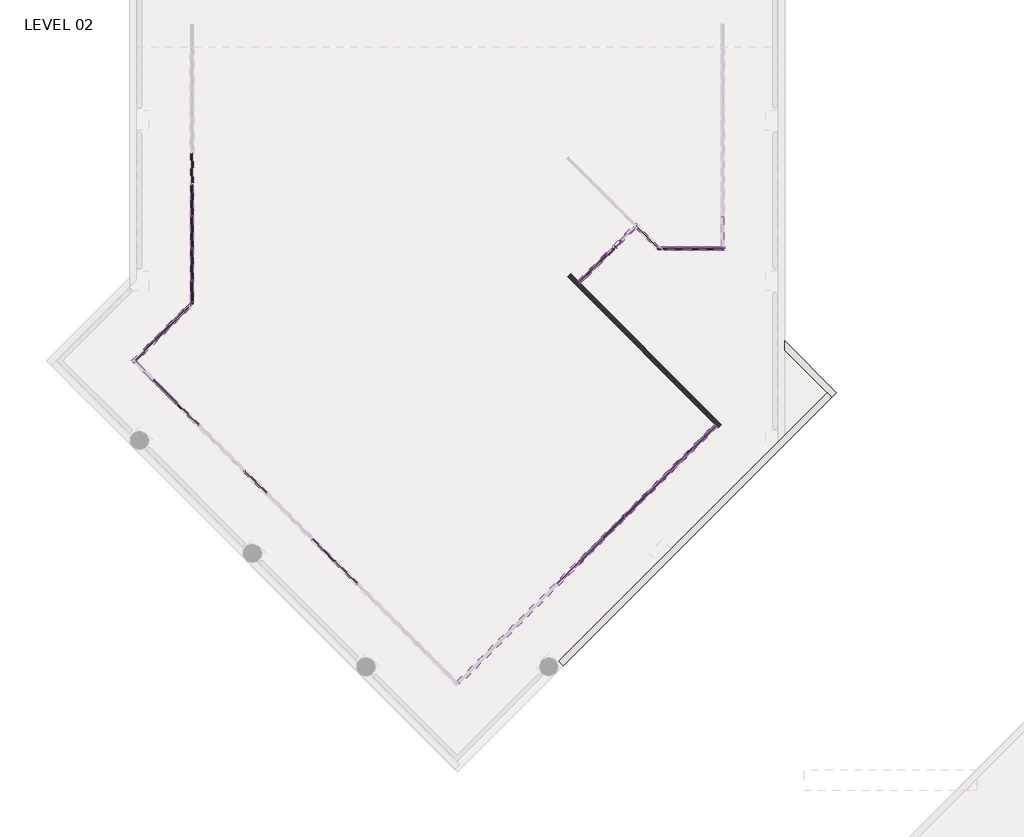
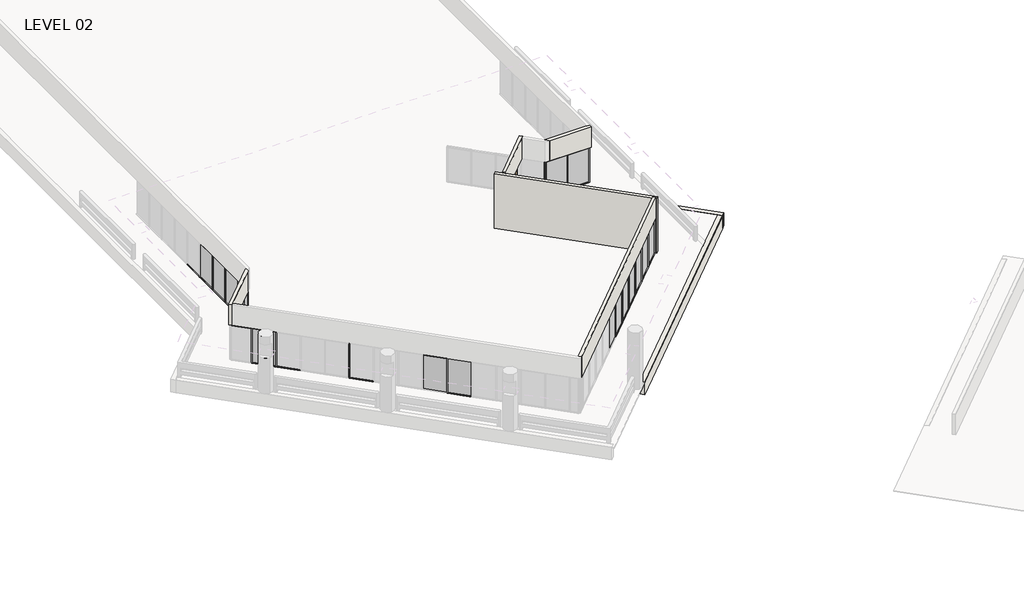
# One storey, part 3 of 19: 76 members, 21 plates, 7 walls, 1 door.
"""IFC4 building model written with IfcOpenShell, lengths in millimetres."""

from ifc_helpers import new_model, si_unit, frame, origin, place, context, project, spatial, polyline, outline, extrude, faceted_brep, transform, mapped, element, save
from components import curtain_wall_dbl_glass_curtain_wall_dbl_glass_ad4eb2cc, member_ed5eb8ce, member_5247f267, member_e44af9ab, member_800970d4, member_cca1f9e6, member_ccf7f6e3, member_67d17f7f, member_d5560c68, member_191f7a6c, member_e56bd8eb, member_6d95746d, member_c23f844a, member_35eb671e, member_74c9df78, member_e779ecf1, member_129419c3, plate_ce959b8d, plate_67294edd, plate_aaac5d3d, plate_5a14c350, plate_748a28b9, plate_028de0fc, plate_048e4634, plate_33a48981, plate_e3fa2cc7, plate_85447239

model = new_model("IFC4")

# Units and contexts
model_context = context("Model", 3, world=origin())
ifc_project = project(units=[si_unit("LENGTHUNIT", "METRE", prefix="MILLI")], contexts=[model_context])

# Site, building, storey
site = spatial("IfcSite", under=ifc_project)
building = spatial("IfcBuilding", under=site)
storey = spatial("IfcBuildingStorey", under=building, Name="LEVEL 02", Elevation=4140.2)

# Door
placement = place(None, origin())
curtain_wall_dbl_glass_curtain_wall_dbl_glass_shape = curtain_wall_dbl_glass_curtain_wall_dbl_glass_ad4eb2cc(model_context)
element("IfcDoor", 1, ObjectType="Curtain Wall Dbl Glass : Curtain Wall Dbl Glass", at=placement, inside=storey, context=model_context, shape_type="MappedRepresentation", body=[
    mapped(curtain_wall_dbl_glass_curtain_wall_dbl_glass_shape, transform((-9768.7051367, 47649.2586372, 4140.2), x_axis=(-0.7071067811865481, -0.7071067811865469, 0.0), y_axis=(0.7071067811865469, -0.7071067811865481, 0.0), z_axis=(0.0, 0.0, 1.0))),
])

# Members
member_shape = member_ed5eb8ce(model_context)
element("IfcMember", 2, ObjectType="Rectangular Mullion : 2\" x 4.5\" rectangular", at=placement, inside=storey, context=model_context, shape_type="MappedRepresentation", body=[
    mapped(member_shape, transform((-29793.1847164, 46062.5675885, 6731.0), x_axis=(0.0, 0.0, 1.0), y_axis=(1.0, 0.0, 0.0), z_axis=(0.0, 1.0, 0.0))),
])
member_2_shape = member_5247f267(model_context)
element("IfcMember", 3, ObjectType="Rectangular Mullion : 2\" x 4.5\" rectangular", at=placement, inside=storey, context=model_context, shape_type="MappedRepresentation", body=[
    mapped(member_2_shape, transform((-29793.1847164, 47586.5675885, 6731.0), x_axis=(0.0, 0.0, 1.0), y_axis=(1.0, 0.0, 0.0), z_axis=(0.0, 1.0, 0.0))),
])
element("IfcMember", 4, ObjectType="Rectangular Mullion : 2\" x 4.5\" rectangular", at=placement, inside=storey, context=model_context, shape_type="MappedRepresentation", body=[
    mapped(member_2_shape, transform((-30540.2150289, 40288.1423984, 6731.0), x_axis=(0.0, 0.0, 1.0), y_axis=(-0.7071067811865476, -0.7071067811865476, 0.0), z_axis=(0.7071067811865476, -0.7071067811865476, 0.0))),
])
element("IfcMember", 5, ObjectType="Rectangular Mullion : 2\" x 4.5\" rectangular", at=placement, inside=storey, context=model_context, shape_type="MappedRepresentation", body=[
    mapped(member_2_shape, transform((-10327.3537461, 33816.4930562, 6731.0), x_axis=(0.0, 0.0, 1.0), y_axis=(0.7071067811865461, -0.707106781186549, 0.0), z_axis=(0.707106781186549, 0.7071067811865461, 0.0))),
])
element("IfcMember", 6, ObjectType="Rectangular Mullion : 2\" x 4.5\" rectangular", at=placement, inside=storey, context=model_context, shape_type="MappedRepresentation", body=[
    mapped(member_2_shape, transform((-9249.7378133, 34894.108989, 6731.0), x_axis=(0.0, 0.0, 1.0), y_axis=(0.7071067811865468, -0.7071067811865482, 0.0), z_axis=(0.7071067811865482, 0.7071067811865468, 0.0))),
])
element("IfcMember", 7, ObjectType="Rectangular Mullion : 2\" x 4.5\" rectangular", at=placement, inside=storey, context=model_context, shape_type="MappedRepresentation", body=[
    mapped(member_2_shape, transform((-7094.4763443, 37049.370458, 6731.0), x_axis=(0.0, 0.0, 1.0), y_axis=(0.7071067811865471, -0.7071067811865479, 0.0), z_axis=(0.7071067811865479, 0.7071067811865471, 0.0))),
])
element("IfcMember", 8, ObjectType="Rectangular Mullion : 2\" x 4.5\" rectangular", at=placement, inside=storey, context=model_context, shape_type="MappedRepresentation", body=[
    mapped(member_2_shape, transform((-29793.1847164, 49110.5675885, 6731.0), x_axis=(0.0, 0.0, 1.0), y_axis=(1.0, 0.0, 0.0), z_axis=(0.0, 1.0, 0.0))),
])
element("IfcMember", 9, ObjectType="Rectangular Mullion : 2\" x 4.5\" rectangular", at=placement, inside=storey, context=model_context, shape_type="MappedRepresentation", body=[
    mapped(member_2_shape, transform((-29793.1847164, 50634.5675885, 6731.0), x_axis=(0.0, 0.0, 1.0), y_axis=(1.0, 0.0, 0.0), z_axis=(0.0, 1.0, 0.0))),
])
element("IfcMember", 10, ObjectType="Rectangular Mullion : 2\" x 4.5\" rectangular", at=placement, inside=storey, context=model_context, shape_type="MappedRepresentation", body=[
    mapped(member_2_shape, transform((-23026.8079799, 32774.7353495, 6731.0), x_axis=(0.0, 0.0, 1.0), y_axis=(-0.7071067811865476, -0.7071067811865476, 0.0), z_axis=(0.7071067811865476, -0.7071067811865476, 0.0))),
])
element("IfcMember", 11, ObjectType="Rectangular Mullion : 2\" x 4.5\" rectangular", at=placement, inside=storey, context=model_context, shape_type="MappedRepresentation", body=[
    mapped(member_2_shape, transform((-11404.9696789, 32738.8771234, 6731.0), x_axis=(0.0, 0.0, 1.0), y_axis=(0.7071067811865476, -0.7071067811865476, 0.0), z_axis=(0.7071067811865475, 0.7071067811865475, 0.0))),
])
element("IfcMember", 12, ObjectType="Rectangular Mullion : 2\" x 4.5\" rectangular", at=placement, inside=storey, context=model_context, shape_type="MappedRepresentation", body=[
    mapped(member_2_shape, transform((-8172.1070788, 35971.7397235, 6731.0), x_axis=(0.0, 0.0, 1.0), y_axis=(0.7071067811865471, -0.7071067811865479, 0.0), z_axis=(0.7071067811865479, 0.7071067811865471, 0.0))),
])
element("IfcMember", 13, ObjectType="Rectangular Mullion : 2\" x 4.5\" rectangular", at=placement, inside=storey, context=model_context, shape_type="MappedRepresentation", body=[
    mapped(member_2_shape, transform((-6016.8456097, 38127.0011926, 6731.0), x_axis=(0.0, 0.0, 1.0), y_axis=(0.7071067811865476, -0.7071067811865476, 0.0), z_axis=(0.7071067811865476, 0.7071067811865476, 0.0))),
])
element("IfcMember", 14, ObjectType="Rectangular Mullion : 2\" x 4.5\" rectangular", at=placement, inside=storey, context=model_context, shape_type="MappedRepresentation", body=[
    mapped(member_shape, transform((-29793.1847164, 45065.6230911, 4140.2), x_axis=(0.0, 0.0, -1.0), y_axis=(1.0, 0.0, 0.0), z_axis=(0.0, -1.0, 0.0))),
])
element("IfcMember", 15, ObjectType="Rectangular Mullion : 2\" x 4.5\" rectangular", at=placement, inside=storey, context=model_context, shape_type="MappedRepresentation", body=[
    mapped(member_2_shape, transform((-29793.1847164, 46113.3675885, 4140.2), x_axis=(0.0, 0.0, -1.0), y_axis=(1.0, 0.0, 0.0), z_axis=(0.0, -1.0, 0.0))),
])
element("IfcMember", 16, ObjectType="Rectangular Mullion : 2\" x 4.5\" rectangular", at=placement, inside=storey, context=model_context, shape_type="MappedRepresentation", body=[
    mapped(member_2_shape, transform((-29793.1847164, 47637.3675885, 4140.2), x_axis=(0.0, 0.0, -1.0), y_axis=(1.0, 0.0, 0.0), z_axis=(0.0, -1.0, 0.0))),
])
element("IfcMember", 17, ObjectType="Rectangular Mullion : 2\" x 4.5\" rectangular", at=placement, inside=storey, context=model_context, shape_type="MappedRepresentation", body=[
    mapped(member_2_shape, transform((-31581.924739, 41329.8521085, 4140.2), x_axis=(0.0, 0.0, -1.0), y_axis=(-0.7071067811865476, -0.7071067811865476, 0.0), z_axis=(-0.7071067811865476, 0.7071067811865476, 0.0))),
])
element("IfcMember", 18, ObjectType="Rectangular Mullion : 2\" x 4.5\" rectangular", at=placement, inside=storey, context=model_context, shape_type="MappedRepresentation", body=[
    mapped(member_2_shape, transform((-10291.4327217, 33852.4140807, 4140.2), x_axis=(0.0, 0.0, -1.0), y_axis=(0.7071067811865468, -0.7071067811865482, 0.0), z_axis=(-0.7071067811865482, -0.7071067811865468, 0.0))),
])
element("IfcMember", 19, ObjectType="Rectangular Mullion : 2\" x 4.5\" rectangular", at=placement, inside=storey, context=model_context, shape_type="MappedRepresentation", body=[
    mapped(member_2_shape, transform((-9213.8167888, 34930.0300135, 4140.2), x_axis=(0.0, 0.0, -1.0), y_axis=(0.7071067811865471, -0.7071067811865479, 0.0), z_axis=(-0.7071067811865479, -0.7071067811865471, 0.0))),
])
element("IfcMember", 20, ObjectType="Rectangular Mullion : 2\" x 4.5\" rectangular", at=placement, inside=storey, context=model_context, shape_type="MappedRepresentation", body=[
    mapped(member_2_shape, transform((-7058.5553198, 37085.2914825, 4140.2), x_axis=(0.0, 0.0, -1.0), y_axis=(0.7071067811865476, -0.7071067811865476, 0.0), z_axis=(-0.7071067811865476, -0.7071067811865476, 0.0))),
])
element("IfcMember", 21, ObjectType="Rectangular Mullion : 2\" x 4.5\" rectangular", at=placement, inside=storey, context=model_context, shape_type="MappedRepresentation", body=[
    mapped(member_2_shape, transform((-29793.1847164, 49161.3675885, 4140.2), x_axis=(0.0, 0.0, -1.0), y_axis=(1.0, 0.0, 0.0), z_axis=(0.0, -1.0, 0.0))),
])
element("IfcMember", 22, ObjectType="Rectangular Mullion : 2\" x 4.5\" rectangular", at=placement, inside=storey, context=model_context, shape_type="MappedRepresentation", body=[
    mapped(member_2_shape, transform((-29793.1847164, 50685.3675885, 4140.2), x_axis=(0.0, 0.0, -1.0), y_axis=(1.0, 0.0, 0.0), z_axis=(0.0, -1.0, 0.0))),
])
element("IfcMember", 23, ObjectType="Rectangular Mullion : 2\" x 4.5\" rectangular", at=placement, inside=storey, context=model_context, shape_type="MappedRepresentation", body=[
    mapped(member_2_shape, transform((-22990.8869555, 32738.814325, 4140.2), x_axis=(0.0, 0.0, -1.0), y_axis=(-0.7071067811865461, -0.707106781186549, 0.0), z_axis=(-0.707106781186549, 0.7071067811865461, 0.0))),
])
element("IfcMember", 24, ObjectType="Rectangular Mullion : 2\" x 4.5\" rectangular", at=placement, inside=storey, context=model_context, shape_type="MappedRepresentation", body=[
    mapped(member_2_shape, transform((-11369.0486545, 32774.7981479, 4140.2), x_axis=(0.0, 0.0, -1.0), y_axis=(0.7071067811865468, -0.7071067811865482, 0.0), z_axis=(-0.7071067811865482, -0.7071067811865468, 0.0))),
])
element("IfcMember", 25, ObjectType="Rectangular Mullion : 2\" x 4.5\" rectangular", at=placement, inside=storey, context=model_context, shape_type="MappedRepresentation", body=[
    mapped(member_2_shape, transform((-8136.1860543, 36007.660748, 4140.2), x_axis=(0.0, 0.0, -1.0), y_axis=(0.7071067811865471, -0.7071067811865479, 0.0), z_axis=(-0.7071067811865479, -0.7071067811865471, 0.0))),
])
member_3_shape = member_e44af9ab(model_context)
element("IfcMember", 26, ObjectType="Rectangular Mullion : 2\" x 4.5\" rectangular", at=placement, inside=storey, context=model_context, shape_type="MappedRepresentation", body=[
    mapped(member_3_shape, transform((-29793.1847164, 46087.9675885, 4140.2), x_axis=(0.0, 1.0, 0.0), y_axis=(1.0, 0.0, 0.0), z_axis=(0.0, 0.0, -1.0))),
])
element("IfcMember", 27, ObjectType="Rectangular Mullion : 2\" x 4.5\" rectangular", at=placement, inside=storey, context=model_context, shape_type="MappedRepresentation", body=[
    mapped(member_3_shape, transform((-29793.1847164, 47611.9675885, 4140.2), x_axis=(0.0, 1.0, 0.0), y_axis=(1.0, 0.0, 0.0), z_axis=(0.0, 0.0, -1.0))),
])
element("IfcMember", 28, ObjectType="Rectangular Mullion : 2\" x 4.5\" rectangular", at=placement, inside=storey, context=model_context, shape_type="MappedRepresentation", body=[
    mapped(member_3_shape, transform((-30501.2124677, 44306.7953398, 4140.2), x_axis=(-0.7071067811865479, -0.7071067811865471, 0.0), y_axis=(-0.7071067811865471, 0.7071067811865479, 0.0), z_axis=(0.0, 0.0, -1.0))),
])
element("IfcMember", 29, ObjectType="Rectangular Mullion : 2\" x 4.5\" rectangular", at=placement, inside=storey, context=model_context, shape_type="MappedRepresentation", body=[
    mapped(member_3_shape, transform((-31599.8852512, 41347.8126207, 4140.2), x_axis=(0.7071067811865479, -0.7071067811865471, 0.0), y_axis=(-0.7071067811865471, -0.7071067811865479, 0.0), z_axis=(0.0, 0.0, -1.0))),
])
element("IfcMember", 30, ObjectType="Rectangular Mullion : 2\" x 4.5\" rectangular", at=placement, inside=storey, context=model_context, shape_type="MappedRepresentation", body=[
    mapped(member_3_shape, transform((-30522.2545167, 40270.1818862, 4140.2), x_axis=(0.7071067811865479, -0.7071067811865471, 0.0), y_axis=(-0.7071067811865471, -0.7071067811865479, 0.0), z_axis=(0.0, 0.0, -1.0))),
])
element("IfcMember", 31, ObjectType="Rectangular Mullion : 2\" x 4.5\" rectangular", at=placement, inside=storey, context=model_context, shape_type="MappedRepresentation", body=[
    mapped(member_3_shape, transform((-10309.3932339, 33834.4535684, 4140.2), x_axis=(0.7071067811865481, 0.7071067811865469, 0.0), y_axis=(0.7071067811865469, -0.7071067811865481, 0.0), z_axis=(0.0, 0.0, -1.0))),
])
element("IfcMember", 32, ObjectType="Rectangular Mullion : 2\" x 4.5\" rectangular", at=placement, inside=storey, context=model_context, shape_type="MappedRepresentation", body=[
    mapped(member_3_shape, transform((-9231.7773011, 34912.0695012, 4140.2), x_axis=(0.7071067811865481, 0.7071067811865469, 0.0), y_axis=(0.7071067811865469, -0.7071067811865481, 0.0), z_axis=(0.0, 0.0, -1.0))),
])
element("IfcMember", 33, ObjectType="Rectangular Mullion : 2\" x 4.5\" rectangular", at=placement, inside=storey, context=model_context, shape_type="MappedRepresentation", body=[
    mapped(member_3_shape, transform((-7076.515832, 37067.3309703, 4140.2), x_axis=(0.7071067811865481, 0.7071067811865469, 0.0), y_axis=(0.7071067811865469, -0.7071067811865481, 0.0), z_axis=(0.0, 0.0, -1.0))),
])
element("IfcMember", 34, ObjectType="Rectangular Mullion : 2\" x 4.5\" rectangular", at=placement, inside=storey, context=model_context, shape_type="MappedRepresentation", body=[
    mapped(member_3_shape, transform((-27307.3242873, 37055.2516568, 4140.2), x_axis=(0.7071067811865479, -0.7071067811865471, 0.0), y_axis=(-0.7071067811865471, -0.7071067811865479, 0.0), z_axis=(0.0, 0.0, -1.0))),
])
element("IfcMember", 35, ObjectType="Rectangular Mullion : 2\" x 4.5\" rectangular", at=placement, inside=storey, context=model_context, shape_type="MappedRepresentation", body=[
    mapped(member_3_shape, transform((-31578.8432022, 43229.1646053, 4140.2), x_axis=(-0.7071067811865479, -0.7071067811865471, 0.0), y_axis=(-0.7071067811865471, 0.7071067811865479, 0.0), z_axis=(0.0, 0.0, -1.0))),
])
element("IfcMember", 36, ObjectType="Rectangular Mullion : 2\" x 4.5\" rectangular", at=placement, inside=storey, context=model_context, shape_type="MappedRepresentation", body=[
    mapped(member_3_shape, transform((-29793.1847164, 49135.9675885, 4140.2), x_axis=(0.0, 1.0, 0.0), y_axis=(1.0, 0.0, 0.0), z_axis=(0.0, 0.0, -1.0))),
])
element("IfcMember", 37, ObjectType="Rectangular Mullion : 2\" x 4.5\" rectangular", at=placement, inside=storey, context=model_context, shape_type="MappedRepresentation", body=[
    mapped(member_3_shape, transform((-23008.8474677, 32756.7748372, 4140.2), x_axis=(0.7071067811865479, -0.7071067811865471, 0.0), y_axis=(-0.7071067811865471, -0.7071067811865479, 0.0), z_axis=(0.0, 0.0, -1.0))),
])
element("IfcMember", 38, ObjectType="Rectangular Mullion : 2\" x 4.5\" rectangular", at=placement, inside=storey, context=model_context, shape_type="MappedRepresentation", body=[
    mapped(member_3_shape, transform((-11387.0091667, 32756.8376356, 4140.2), x_axis=(0.7071067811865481, 0.7071067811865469, 0.0), y_axis=(0.7071067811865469, -0.7071067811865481, 0.0), z_axis=(0.0, 0.0, -1.0))),
])
element("IfcMember", 39, ObjectType="Rectangular Mullion : 2\" x 4.5\" rectangular", at=placement, inside=storey, context=model_context, shape_type="MappedRepresentation", body=[
    mapped(member_3_shape, transform((-8154.1465666, 35989.7002358, 4140.2), x_axis=(0.7071067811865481, 0.7071067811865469, 0.0), y_axis=(0.7071067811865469, -0.7071067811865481, 0.0), z_axis=(0.0, 0.0, -1.0))),
])
element("IfcMember", 40, ObjectType="Rectangular Mullion : 2\" x 4.5\" rectangular", at=placement, inside=storey, context=model_context, shape_type="MappedRepresentation", body=[
    mapped(member_3_shape, transform((-5998.8850975, 38144.9617048, 4140.2), x_axis=(0.7071067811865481, 0.7071067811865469, 0.0), y_axis=(0.7071067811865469, -0.7071067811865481, 0.0), z_axis=(0.0, 0.0, -1.0))),
])
element("IfcMember", 41, ObjectType="Rectangular Mullion : 2\" x 4.5\" rectangular", at=placement, inside=storey, context=model_context, shape_type="MappedRepresentation", body=[
    mapped(member_3_shape, transform((-6126.7347164, 47611.9675885, 4140.2), x_axis=(-1.0, 0.0, 0.0), y_axis=(0.0, 1.0, 0.0), z_axis=(0.0, 0.0, -1.0))),
])
element("IfcMember", 42, ObjectType="Rectangular Mullion : 2\" x 4.5\" rectangular", at=placement, inside=storey, context=model_context, shape_type="MappedRepresentation", body=[
    mapped(member_3_shape, transform((-9445.7075963, 47972.2561777, 4140.2), x_axis=(-0.7071067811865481, -0.7071067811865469, 0.0), y_axis=(-0.7071067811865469, 0.7071067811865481, 0.0), z_axis=(0.0, 0.0, -1.0))),
])
element("IfcMember", 43, ObjectType="Rectangular Mullion : 2\" x 4.5\" rectangular", at=placement, inside=storey, context=model_context, shape_type="MappedRepresentation", body=[
    mapped(member_3_shape, transform((-10738.8644778, 46679.0992962, 4140.2), x_axis=(-0.7071067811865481, -0.7071067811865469, 0.0), y_axis=(-0.7071067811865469, 0.7071067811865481, 0.0), z_axis=(0.0, 0.0, -1.0))),
])
member_4_shape = member_800970d4(model_context)
element("IfcMember", 44, ObjectType="Rectangular Mullion : 2\" x 4.5\" rectangular", at=placement, inside=storey, context=model_context, shape_type="MappedRepresentation", body=[
    mapped(member_4_shape, transform((-4921.254363, 39222.5924393, 4140.2), x_axis=(0.7071067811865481, 0.7071067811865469, 0.0), y_axis=(0.7071067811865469, -0.7071067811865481, 0.0), z_axis=(0.0, 0.0, -1.0))),
])
element("IfcMember", 45, ObjectType="Rectangular Mullion : 2\" x 4.5\" rectangular", at=placement, inside=storey, context=model_context, shape_type="MappedRepresentation", body=[
    mapped(member_4_shape, transform((-4602.7347164, 47611.9675885, 4140.2), x_axis=(0.0, -1.0, 0.0), y_axis=(-1.0, 0.0, 0.0), z_axis=(0.0, 0.0, -1.0))),
])
element("IfcMember", 46, ObjectType="Rectangular Mullion : 2\" x 4.5\" rectangular", at=placement, inside=storey, context=model_context, shape_type="MappedRepresentation", body=[
    mapped(member_4_shape, transform((-7650.7347164, 47611.9675885, 4140.2), x_axis=(-1.0, 0.0, 0.0), y_axis=(0.0, 1.0, 0.0), z_axis=(0.0, 0.0, -1.0))),
])
element("IfcMember", 47, ObjectType="Rectangular Mullion : 2\" x 4.5\" rectangular", at=placement, inside=storey, context=model_context, shape_type="MappedRepresentation", body=[
    mapped(member_4_shape, transform((-11414.6287509, 46003.3350231, 4140.2), x_axis=(-0.7071067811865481, -0.7071067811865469, 0.0), y_axis=(-0.7071067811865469, 0.7071067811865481, 0.0), z_axis=(0.0, 0.0, -1.0))),
])
element("IfcMember", 48, ObjectType="Rectangular Mullion : 2\" x 4.5\" rectangular", at=placement, inside=storey, context=model_context, shape_type="MappedRepresentation", body=[
    mapped(member_4_shape, transform((-29793.1847164, 45014.8230911, 6731.0), x_axis=(0.0, -1.0, 0.0), y_axis=(1.0, 0.0, 0.0), z_axis=(0.0, 0.0, 1.0))),
])
element("IfcMember", 49, ObjectType="Rectangular Mullion : 2\" x 4.5\" rectangular", at=placement, inside=storey, context=model_context, shape_type="MappedRepresentation", body=[
    mapped(member_4_shape, transform((-29793.1847164, 45014.8230911, 6731.0), x_axis=(0.7071067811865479, 0.7071067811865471, 0.0), y_axis=(-0.7071067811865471, 0.7071067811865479, 0.0), z_axis=(0.0, 0.0, 1.0))),
])
element("IfcMember", 50, ObjectType="Rectangular Mullion : 2\" x 4.5\" rectangular", at=placement, inside=storey, context=model_context, shape_type="MappedRepresentation", body=[
    mapped(member_4_shape, transform((-4602.7347164, 47611.9675885, 6731.0), x_axis=(1.0, 0.0, 0.0), y_axis=(0.0, 1.0, 0.0), z_axis=(0.0, 0.0, 1.0))),
])
element("IfcMember", 51, ObjectType="Rectangular Mullion : 2\" x 4.5\" rectangular", at=placement, inside=storey, context=model_context, shape_type="MappedRepresentation", body=[
    mapped(member_4_shape, transform((-7650.7347164, 47611.9675885, 6731.0), x_axis=(0.7071067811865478, -0.7071067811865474, 0.0), y_axis=(0.7071067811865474, 0.7071067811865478, 0.0), z_axis=(0.0, 0.0, 1.0))),
])
member_5_shape = member_cca1f9e6(model_context)
element("IfcMember", 52, ObjectType="Rectangular Mullion : 2\" x 4.5\" rectangular", at=placement, inside=storey, context=model_context, shape_type="MappedRepresentation", body=[
    mapped(member_5_shape, transform((-4957.1753875, 39186.6714149, 6731.0), x_axis=(0.0, 0.0, 1.0), y_axis=(0.7071067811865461, -0.707106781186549, 0.0), z_axis=(0.7071067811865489, 0.707106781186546, 0.0))),
])
element("IfcMember", 53, ObjectType="Rectangular Mullion : 2\" x 4.5\" rectangular", at=placement, inside=storey, context=model_context, shape_type="MappedRepresentation", body=[
    mapped(member_5_shape, transform((-4602.7347164, 47662.7675885, 6731.0), x_axis=(0.0, 0.0, 1.0), y_axis=(-1.0, 0.0, 0.0), z_axis=(0.0, -1.0, 0.0))),
])
element("IfcMember", 54, ObjectType="Rectangular Mullion : 2\" x 4.5\" rectangular", at=placement, inside=storey, context=model_context, shape_type="MappedRepresentation", body=[
    mapped(member_5_shape, transform((-7599.9347164, 47611.9675885, 6731.0), x_axis=(0.0, 0.0, 1.0), y_axis=(0.0, 1.0, 0.0), z_axis=(-1.0, 0.0, 0.0))),
])
element("IfcMember", 55, ObjectType="Rectangular Mullion : 2\" x 4.5\" rectangular", at=placement, inside=storey, context=model_context, shape_type="MappedRepresentation", body=[
    mapped(member_5_shape, transform((-6101.3347164, 47611.9675885, 6731.0), x_axis=(0.0, 0.0, 1.0), y_axis=(0.0, 1.0, 0.0), z_axis=(-1.0, 0.0, 0.0))),
])
member_6_shape = member_ccf7f6e3(model_context)
element("IfcMember", 56, ObjectType="Rectangular Mullion : 2\" x 4.5\" rectangular", at=placement, inside=storey, context=model_context, shape_type="MappedRepresentation", body=[
    mapped(member_6_shape, transform((-5980.9245853, 38162.9222171, 4140.2), x_axis=(0.0, 0.0, -1.0), y_axis=(0.7071067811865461, -0.707106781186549, 0.0), z_axis=(-0.7071067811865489, -0.707106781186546, 0.0))),
])
element("IfcMember", 57, ObjectType="Rectangular Mullion : 2\" x 4.5\" rectangular", at=placement, inside=storey, context=model_context, shape_type="MappedRepresentation", body=[
    mapped(member_6_shape, transform((-4653.5347164, 47611.9675885, 4140.2), x_axis=(0.0, 0.0, -1.0), y_axis=(0.0, 1.0, 0.0), z_axis=(1.0, 0.0, 0.0))),
])
element("IfcMember", 58, ObjectType="Rectangular Mullion : 2\" x 4.5\" rectangular", at=placement, inside=storey, context=model_context, shape_type="MappedRepresentation", body=[
    mapped(member_6_shape, transform((-6152.1347164, 47611.9675885, 4140.2), x_axis=(0.0, 0.0, -1.0), y_axis=(0.0, 1.0, 0.0), z_axis=(1.0, 0.0, 0.0))),
])
element("IfcMember", 59, ObjectType="Rectangular Mullion : 2\" x 4.5\" rectangular", at=placement, inside=storey, context=model_context, shape_type="MappedRepresentation", body=[
    mapped(member_6_shape, transform((-7686.6557409, 47647.888613, 4140.2), x_axis=(0.0, 0.0, -1.0), y_axis=(0.7071067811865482, 0.7071067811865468, 0.0), z_axis=(0.7071067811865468, -0.7071067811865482, 0.0))),
])
member_7_shape = member_67d17f7f(model_context)
element("IfcMember", 60, ObjectType="Rectangular Mullion : 2\" x 4.5\" rectangular", at=placement, inside=storey, context=model_context, shape_type="MappedRepresentation", body=[
    mapped(member_7_shape, transform((-11378.7077264, 46039.2560476, 6731.0), x_axis=(0.0, 0.0, 1.0), y_axis=(-0.7071067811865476, 0.7071067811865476, 0.0), z_axis=(-0.7071067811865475, -0.7071067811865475, 0.0))),
])
member_8_shape = member_d5560c68(model_context)
element("IfcMember", 61, ObjectType="Rectangular Mullion : 2\" x 4.5\" rectangular", at=placement, inside=storey, context=model_context, shape_type="MappedRepresentation", body=[
    mapped(member_8_shape, transform((-9427.7470841, 47990.2166899, 6731.0), x_axis=(0.0, 0.0, 1.0), y_axis=(-0.7071067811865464, 0.7071067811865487, 0.0), z_axis=(-0.7071067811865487, -0.7071067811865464, 0.0))),
])
element("IfcMember", 62, ObjectType="Rectangular Mullion : 2\" x 4.5\" rectangular", at=placement, inside=storey, context=model_context, shape_type="MappedRepresentation", body=[
    mapped(member_7_shape, transform((-10756.82499, 46661.138784, 4140.2), x_axis=(0.0, 0.0, -1.0), y_axis=(-0.7071067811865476, 0.7071067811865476, 0.0), z_axis=(0.7071067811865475, 0.7071067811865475, 0.0))),
])
member_9_shape = member_191f7a6c(model_context)
element("IfcMember", 63, ObjectType="Rectangular Mullion : 2\" x 4.5\" rectangular", at=placement, inside=storey, context=model_context, shape_type="MappedRepresentation", body=[
    mapped(member_9_shape, transform((-30483.2519555, 44324.7558521, 6731.0), x_axis=(0.0, 0.0, 1.0), y_axis=(-0.7071067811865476, 0.7071067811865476, 0.0), z_axis=(-0.7071067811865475, -0.7071067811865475, 0.0))),
])
element("IfcMember", 64, ObjectType="Rectangular Mullion : 2\" x 4.5\" rectangular", at=placement, inside=storey, context=model_context, shape_type="MappedRepresentation", body=[
    mapped(member_9_shape, transform((-29829.1057409, 44978.9020666, 4140.2), x_axis=(0.0, 0.0, -1.0), y_axis=(-0.7071067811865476, 0.7071067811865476, 0.0), z_axis=(0.7071067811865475, 0.7071067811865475, 0.0))),
])
member_10_shape = member_e56bd8eb(model_context)
element("IfcMember", 65, ObjectType="Rectangular Mullion : 2\" x 4.5\" rectangular", at=placement, inside=storey, context=model_context, shape_type="MappedRepresentation", body=[
    mapped(member_10_shape, transform((-31596.8037145, 43211.2040931, 4140.2), x_axis=(0.0, 0.0, -1.0), y_axis=(-0.7071067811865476, 0.7071067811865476, 0.0), z_axis=(0.7071067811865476, 0.7071067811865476, 0.0))),
])
member_11_shape = member_6d95746d(model_context)
element("IfcMember", 66, ObjectType="Rectangular Mullion : 2\" x 4.5\" rectangular", at=placement, inside=storey, context=model_context, shape_type="MappedRepresentation", body=[
    mapped(member_11_shape, transform((-31617.8457634, 41365.773133, 6731.0), x_axis=(0.0, 0.0, 1.0), y_axis=(-0.7071067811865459, -0.7071067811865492, 0.0), z_axis=(0.7071067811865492, -0.7071067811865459, 0.0))),
])
member_12_shape = member_c23f844a(model_context)
element("IfcMember", 67, ObjectType="Rectangular Mullion : 2\" x 4.5\" rectangular", at=placement, inside=storey, context=model_context, shape_type="MappedRepresentation", body=[
    mapped(member_12_shape, transform((-30504.2940044, 40252.2213739, 4140.2), x_axis=(0.0, 0.0, -1.0), y_axis=(-0.7071067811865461, -0.707106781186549, 0.0), z_axis=(-0.7071067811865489, 0.707106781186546, 0.0))),
])
element("IfcMember", 68, ObjectType="Rectangular Mullion : 2\" x 4.5\" rectangular", at=placement, inside=storey, context=model_context, shape_type="MappedRepresentation", body=[
    mapped(member_12_shape, transform((-27289.363775, 37037.2911446, 4140.2), x_axis=(0.0, 0.0, -1.0), y_axis=(-0.7071067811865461, -0.707106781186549, 0.0), z_axis=(-0.7071067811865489, 0.707106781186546, 0.0))),
])
element("IfcMember", 69, ObjectType="Rectangular Mullion : 2\" x 4.5\" rectangular", at=placement, inside=storey, context=model_context, shape_type="MappedRepresentation", body=[
    mapped(member_3_shape, transform((-31161.6124677, 43646.3953398, 4140.2), x_axis=(-0.7071067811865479, -0.7071067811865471, 0.0), y_axis=(-0.7071067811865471, 0.7071067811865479, 0.0), z_axis=(0.0, 0.0, -1.0))),
])
element("IfcMember", 70, ObjectType="Rectangular Mullion : 2\" x 4.5\" rectangular", at=placement, inside=storey, context=model_context, shape_type="MappedRepresentation", body=[
    mapped(member_3_shape, transform((-10091.7026772, 47326.2610968, 4140.2), x_axis=(-0.7071067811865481, -0.7071067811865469, 0.0), y_axis=(-0.7071067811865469, 0.7071067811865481, 0.0), z_axis=(0.0, 0.0, -1.0))),
])
member_13_shape = member_35eb671e(model_context)
element("IfcMember", 71, ObjectType="Rectangular Mullion : 2\" x 4.5\" rectangular", at=placement, inside=storey, context=model_context, shape_type="MappedRepresentation", body=[
    mapped(member_13_shape, transform((-10720.9039655, 46697.0598085, 6731.0), x_axis=(0.0, 0.0, 1.0), y_axis=(-0.7071067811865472, 0.7071067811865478, 0.0), z_axis=(-0.7071067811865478, -0.7071067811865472, 0.0))),
])
member_14_shape = member_74c9df78(model_context)
element("IfcMember", 72, ObjectType="Rectangular Mullion : 2\" x 4.5\" rectangular", at=placement, inside=storey, context=model_context, shape_type="MappedRepresentation", body=[
    mapped(member_14_shape, transform((-10073.7421649, 47344.221609, 6731.0), x_axis=(0.0, 0.0, 1.0), y_axis=(-0.7071067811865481, 0.707106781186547, 0.0), z_axis=(-0.707106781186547, -0.7071067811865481, 0.0))),
])
element("IfcMember", 73, ObjectType="Rectangular Mullion : 2\" x 4.5\" rectangular", at=placement, inside=storey, context=model_context, shape_type="MappedRepresentation", body=[
    mapped(member_13_shape, transform((-10109.6631894, 47308.3005846, 4140.2), x_axis=(0.0, 0.0, -1.0), y_axis=(-0.7071067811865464, 0.7071067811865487, 0.0), z_axis=(0.7071067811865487, 0.7071067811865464, 0.0))),
])
member_15_shape = member_e779ecf1(model_context)
element("IfcMember", 74, ObjectType="Rectangular Mullion : 2\" x 4.5\" rectangular", at=placement, inside=storey, context=model_context, shape_type="MappedRepresentation", body=[
    mapped(member_15_shape, transform((-30519.1729799, 44288.8348276, 4140.2), x_axis=(0.0, 0.0, -1.0), y_axis=(-0.7071067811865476, 0.7071067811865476, 0.0), z_axis=(0.7071067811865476, 0.7071067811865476, 0.0))),
])
member_16_shape = member_129419c3(model_context)
element("IfcMember", 75, ObjectType="Rectangular Mullion : 2\" x 4.5\" rectangular", at=placement, inside=storey, context=model_context, shape_type="MappedRepresentation", body=[
    mapped(member_16_shape, transform((-31560.88269, 43247.1251175, 6731.0), x_axis=(0.0, 0.0, 1.0), y_axis=(-0.7071067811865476, 0.7071067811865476, 0.0), z_axis=(-0.7071067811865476, -0.7071067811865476, 0.0))),
])
element("IfcMember", 76, ObjectType="Rectangular Mullion : 2\" x 4.5\" rectangular", at=placement, inside=storey, context=model_context, shape_type="MappedRepresentation", body=[
    mapped(member_16_shape, transform((-31179.5729799, 43628.4348276, 4140.2), x_axis=(0.0, 0.0, -1.0), y_axis=(-0.7071067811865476, 0.7071067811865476, 0.0), z_axis=(0.7071067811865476, 0.7071067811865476, 0.0))),
])
element("IfcMember", 77, ObjectType="Rectangular Mullion : 2\" x 4.5\" rectangular", at=placement, inside=storey, context=model_context, shape_type="MappedRepresentation", body=[
    mapped(member_15_shape, transform((-31143.6519555, 43664.3558521, 6731.0), x_axis=(0.0, 0.0, 1.0), y_axis=(-0.7071067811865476, 0.7071067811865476, 0.0), z_axis=(-0.7071067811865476, -0.7071067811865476, 0.0))),
])

# Plates
plate_shape = plate_ce959b8d(model_context)
element("IfcPlate", 78, ObjectType="System Panel : 1/4\" Glass", at=placement, inside=storey, context=model_context, shape_type="MappedRepresentation", body=[
    mapped(plate_shape, transform((-29793.1847164, 45564.0953398, 4191.0), x_axis=(0.0, 1.0, 0.0), y_axis=(-1.0, 0.0, 0.0), z_axis=(0.0, 0.0, 1.0))),
])
plate_2_shape = plate_67294edd(model_context)
element("IfcPlate", 79, ObjectType="System Panel : 1/4\" Glass", at=placement, inside=storey, context=model_context, shape_type="MappedRepresentation", body=[
    mapped(plate_2_shape, transform((-29793.1847164, 46849.9675885, 4191.0), x_axis=(0.0, 1.0, 0.0), y_axis=(-1.0, 0.0, 0.0), z_axis=(0.0, 0.0, 1.0))),
])
element("IfcPlate", 80, ObjectType="System Panel : 1/4\" Glass", at=placement, inside=storey, context=model_context, shape_type="MappedRepresentation", body=[
    mapped(plate_2_shape, transform((-29793.1847164, 48373.9675885, 4191.0), x_axis=(0.0, 1.0, 0.0), y_axis=(-1.0, 0.0, 0.0), z_axis=(0.0, 0.0, 1.0))),
])
element("IfcPlate", 81, ObjectType="System Panel : 1/4\" Glass", at=placement, inside=storey, context=model_context, shape_type="MappedRepresentation", body=[
    mapped(plate_2_shape, transform((-31061.0698839, 40808.9972535, 4191.0), x_axis=(0.7071067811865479, -0.7071067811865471, 0.0), y_axis=(0.7071067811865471, 0.7071067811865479, 0.0), z_axis=(0.0, 0.0, 1.0))),
])
element("IfcPlate", 82, ObjectType="System Panel : 1/4\" Glass", at=placement, inside=storey, context=model_context, shape_type="MappedRepresentation", body=[
    mapped(plate_2_shape, transform((-8692.9619338, 35450.8848685, 4191.0), x_axis=(0.7071067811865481, 0.7071067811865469, 0.0), y_axis=(-0.7071067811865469, 0.7071067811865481, 0.0), z_axis=(0.0, 0.0, 1.0))),
])
element("IfcPlate", 83, ObjectType="System Panel : 1/4\" Glass", at=placement, inside=storey, context=model_context, shape_type="MappedRepresentation", body=[
    mapped(plate_2_shape, transform((-6537.7004648, 37606.1463375, 4191.0), x_axis=(0.7071067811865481, 0.7071067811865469, 0.0), y_axis=(-0.7071067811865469, 0.7071067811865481, 0.0), z_axis=(0.0, 0.0, 1.0))),
])
element("IfcPlate", 84, ObjectType="System Panel : 1/4\" Glass", at=placement, inside=storey, context=model_context, shape_type="MappedRepresentation", body=[
    mapped(plate_2_shape, transform((-29793.1847164, 49897.9675885, 4191.0), x_axis=(0.0, 1.0, 0.0), y_axis=(-1.0, 0.0, 0.0), z_axis=(0.0, 0.0, 1.0))),
])
element("IfcPlate", 85, ObjectType="System Panel : 1/4\" Glass", at=placement, inside=storey, context=model_context, shape_type="MappedRepresentation", body=[
    mapped(plate_2_shape, transform((-7615.3311993, 36528.515603, 4191.0), x_axis=(0.7071067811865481, 0.7071067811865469, 0.0), y_axis=(-0.7071067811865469, 0.7071067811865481, 0.0), z_axis=(0.0, 0.0, 1.0))),
])
plate_3_shape = plate_aaac5d3d(model_context)
element("IfcPlate", 86, ObjectType="System Panel : 1/4\" Glass", at=placement, inside=storey, context=model_context, shape_type="MappedRepresentation", body=[
    mapped(plate_3_shape, transform((-11925.8171331, 32218.0296692, 4191.0), x_axis=(0.7071067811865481, 0.7071067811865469, 0.0), y_axis=(-0.7071067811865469, 0.7071067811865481, 0.0), z_axis=(0.0, 0.0, 1.0))),
])
element("IfcPlate", 87, ObjectType="System Panel : 1/4\" Glass", at=placement, inside=storey, context=model_context, shape_type="MappedRepresentation", body=[
    mapped(plate_3_shape, transform((-9770.5852675, 34373.2615348, 4191.0), x_axis=(0.7071067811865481, 0.7071067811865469, 0.0), y_axis=(-0.7071067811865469, 0.7071067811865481, 0.0), z_axis=(0.0, 0.0, 1.0))),
])
element("IfcPlate", 88, ObjectType="System Panel : 1/4\" Glass", at=placement, inside=storey, context=model_context, shape_type="MappedRepresentation", body=[
    mapped(plate_3_shape, transform((-10848.2012003, 33295.645602, 4191.0), x_axis=(0.7071067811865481, 0.7071067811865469, 0.0), y_axis=(-0.7071067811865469, 0.7071067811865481, 0.0), z_axis=(0.0, 0.0, 1.0))),
])
plate_4_shape = plate_5a14c350(model_context)
element("IfcPlate", 89, ObjectType="System Panel : 1/4\" Glass", at=placement, inside=storey, context=model_context, shape_type="MappedRepresentation", body=[
    mapped(plate_4_shape, transform((-5469.0499864, 38674.796816, 4191.0), x_axis=(0.7071067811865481, 0.7071067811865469, 0.0), y_axis=(-0.7071067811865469, 0.7071067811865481, 0.0), z_axis=(0.0, 0.0, 1.0))),
])
element("IfcPlate", 90, ObjectType="System Panel : 1/4\" Glass", at=placement, inside=storey, context=model_context, shape_type="MappedRepresentation", body=[
    mapped(plate_4_shape, transform((-5377.4347164, 47611.9675885, 4191.0), x_axis=(-1.0, 0.0, 0.0), y_axis=(0.0, -1.0, 0.0), z_axis=(0.0, 0.0, 1.0))),
])
element("IfcPlate", 91, ObjectType="System Panel : 1/4\" Glass", at=placement, inside=storey, context=model_context, shape_type="MappedRepresentation", body=[
    mapped(plate_4_shape, transform((-6876.0347164, 47611.9675885, 4191.0), x_axis=(-1.0, 0.0, 0.0), y_axis=(0.0, -1.0, 0.0), z_axis=(0.0, 0.0, 1.0))),
])
plate_5_shape = plate_748a28b9(model_context)
element("IfcPlate", 92, ObjectType="System Panel : 1/4\" Glass", at=placement, inside=storey, context=model_context, shape_type="MappedRepresentation", body=[
    mapped(plate_5_shape, transform((-11067.7663582, 46350.1974158, 4191.0), x_axis=(-0.7071067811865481, -0.7071067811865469, 0.0), y_axis=(0.7071067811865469, -0.7071067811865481, 0.0), z_axis=(0.0, 0.0, 1.0))),
])
plate_6_shape = plate_028de0fc(model_context)
element("IfcPlate", 93, ObjectType="System Panel : 1/4\" Glass", at=placement, inside=storey, context=model_context, shape_type="MappedRepresentation", body=[
    mapped(plate_6_shape, transform((-30156.1788482, 44651.8289594, 4191.0), x_axis=(-0.7071067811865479, -0.7071067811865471, 0.0), y_axis=(0.7071067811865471, -0.7071067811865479, 0.0), z_axis=(0.0, 0.0, 1.0))),
])
plate_7_shape = plate_048e4634(model_context)
element("IfcPlate", 94, ObjectType="System Panel : 1/4\" Glass", at=placement, inside=storey, context=model_context, shape_type="MappedRepresentation", body=[
    mapped(plate_7_shape, transform((-22470.0499677, 32217.9773372, 4191.0), x_axis=(0.7071067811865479, -0.7071067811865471, 0.0), y_axis=(0.7071067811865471, 0.7071067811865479, 0.0), z_axis=(0.0, 0.0, 1.0))),
])
element("IfcPlate", 95, ObjectType="System Panel : 1/4\" Glass", at=placement, inside=storey, context=model_context, shape_type="MappedRepresentation", body=[
    mapped(plate_7_shape, transform((-23547.6449677, 33295.5723372, 4191.0), x_axis=(0.7071067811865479, -0.7071067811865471, 0.0), y_axis=(0.7071067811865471, 0.7071067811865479, 0.0), z_axis=(0.0, 0.0, 1.0))),
])
plate_8_shape = plate_33a48981(model_context)
element("IfcPlate", 96, ObjectType="System Panel : 1/4\" Glass", at=placement, inside=storey, context=model_context, shape_type="MappedRepresentation", body=[
    mapped(plate_8_shape, transform((-30831.4124677, 43976.5953398, 4191.0), x_axis=(-0.7071067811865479, -0.7071067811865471, 0.0), y_axis=(0.7071067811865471, -0.7071067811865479, 0.0), z_axis=(0.0, 0.0, 1.0))),
])
plate_9_shape = plate_e3fa2cc7(model_context)
element("IfcPlate", 97, ObjectType="System Panel : 1/4\" Glass", at=placement, inside=storey, context=model_context, shape_type="MappedRepresentation", body=[
    mapped(plate_9_shape, transform((-10415.2835775, 47002.6801965, 4191.0), x_axis=(-0.7071067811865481, -0.7071067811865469, 0.0), y_axis=(0.7071067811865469, -0.7071067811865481, 0.0), z_axis=(0.0, 0.0, 1.0))),
])
plate_10_shape = plate_85447239(model_context)
element("IfcPlate", 98, ObjectType="System Panel : 1/4\" Glass", at=placement, inside=storey, context=model_context, shape_type="MappedRepresentation", body=[
    mapped(plate_10_shape, transform((-31370.227835, 43437.7799726, 4191.0), x_axis=(-0.7071067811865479, -0.7071067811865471, 0.0), y_axis=(0.7071067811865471, -0.7071067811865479, 0.0), z_axis=(0.0, 0.0, 1.0))),
])

# Walls
element("IfcWall", 99, ObjectType="01-CONCRETE-12", at=placement, inside=storey, context=model_context, shape_type="Brep", body=[
    faceted_brep([(796.0682668, 40773.076229, 3225.8), (-1656.3347164, 43225.4792122, 3225.8), (-1656.3347164, 43225.4792122, 4140.2), (796.0682668, 40773.076229, 4140.2), (580.5421199, 40557.5500821, 3225.8), (580.5421199, 40557.5500821, 4140.2), (365.015973, 40773.076229, 4140.2), (-1656.3347164, 42794.4269184, 4140.2), (-1656.3347164, 42794.4269184, 3225.8), (365.015973, 40773.076229, 3225.8)], [[[0, 1, 2, 3]], [[4, 5, 6, 7, 8, 9]], [[1, 0, 4, 9, 8]], [[3, 2, 7, 6, 5]], [[0, 3, 5, 4]], [[2, 1, 8, 7]]]),
])
element("IfcWall", 100, ObjectType="01-CONCRETE-12", at=placement, inside=storey, context=model_context, shape_type="Brep", body=[
    faceted_brep([(-12177.2273002, 27799.780662, 3225.8), (580.5421199, 40557.5500821, 3225.8), (580.5421199, 40557.5500821, 4140.2), (-12177.2273002, 27799.780662, 4140.2), (-12392.7534471, 28015.3068089, 3225.8), (-12392.7534471, 28015.3068089, 4140.2), (-7668.7886919, 32739.271564, 4140.2), (-7059.1886919, 33348.871564, 4140.2), (-2310.5716429, 38097.488613, 4140.2), (-1961.1347164, 38446.9255396, 4140.2), (-1656.3347164, 38751.7255396, 4140.2), (365.015973, 40773.076229, 4140.2), (365.015973, 40773.076229, 3225.8), (-1656.3347164, 38751.7255396, 3225.8), (-1961.1347164, 38446.9255396, 3225.8), (-2310.5716429, 38097.488613, 3225.8), (-7059.1886919, 33348.871564, 3225.8), (-7668.7886919, 32739.271564, 3225.8)], [[[0, 1, 2, 3]], [[4, 5, 6, 7, 8, 9, 10, 11, 12, 13, 14, 15, 16, 17]], [[1, 0, 4, 17, 16, 15, 14, 13, 12]], [[3, 2, 11, 10, 9, 8, 7, 6, 5]], [[2, 1, 12, 11]], [[0, 3, 5, 4]]]),
])
element("IfcWall", 101, ObjectType="8\" Existing Wall", at=placement, inside=storey, context=model_context, shape_type="SweptSolid", body=[
    extrude(outline(polyline([(-11818.7533652, 46407.4596375), (-4665.3170635, 39254.0233358), (-4809.0011615, 39110.3392378), (-11962.4374632, 46263.7755396), (-11818.7533652, 46407.4596375)])), frame((0.0, 0.0, 4140.2), z_axis=(0.0, 0.0, 1.0), x_axis=(1.0, 0.0, 0.0)), (0.0, 0.0, 1.0), 4013.2),
])
element("IfcWall", 102, ObjectType="8\" Existing Wall", at=placement, inside=storey, context=model_context, shape_type="Brep", body=[
    faceted_brep([(-29894.7847164, 45056.9071891, 6731.0), (-32673.7243169, 42277.9675885, 6731.0), (-32673.7243169, 42277.9675885, 8229.6), (-29894.7847164, 45056.9071891, 8229.6), (-29894.7847164, 44769.5389932, 6731.0), (-29894.7847164, 44769.5389932, 8229.6), (-32386.3561211, 42277.9675885, 8229.6), (-32530.040219, 42134.2834906, 8229.6), (-32530.040219, 42134.2834906, 6731.0), (-32386.3561211, 42277.9675885, 6731.0)], [[[0, 1, 2, 3]], [[4, 5, 6, 7, 8, 9]], [[1, 0, 4, 9, 8]], [[3, 2, 7, 6, 5]], [[0, 3, 5, 4]], [[2, 1, 8, 7]]]),
])
element("IfcWall", 103, ObjectType="8\" Existing Wall", at=placement, inside=storey, context=model_context, shape_type="SweptSolid", body=[
    extrude(outline(polyline([(-4849.412314, 39150.7503904), (-17054.2756185, 26945.8870859), (-17197.9597164, 27089.5711839), (-4993.0964119, 39294.4344883), (-4849.412314, 39150.7503904)])), frame((0.0, 0.0, 6731.0), z_axis=(0.0, 0.0, 1.0), x_axis=(1.0, 0.0, 0.0)), (0.0, 0.0, 1.0), 1498.6),
])
element("IfcWall", 104, ObjectType="8\" Existing Wall", at=placement, inside=storey, context=model_context, shape_type="Brep", body=[
    faceted_brep([(-11342.7867019, 45931.4929741, 6731.0), (-8728.3654509, 48545.9142251, 6731.0), (-8584.681353, 48689.598323, 6731.0), (-8584.681353, 48689.598323, 8229.6), (-8728.3654509, 48545.9142251, 8229.6), (-11342.7867019, 45931.4929741, 8229.6), (-11486.4707998, 46075.1770721, 6731.0), (-11486.4707998, 46075.1770721, 8229.6), (-8728.3654509, 48833.282421, 8229.6), (-8728.3654509, 48833.282421, 6731.0)], [[[0, 1, 2, 3, 4, 5]], [[6, 7, 8, 9]], [[2, 1, 0, 6, 9]], [[5, 4, 3, 8, 7]], [[0, 5, 7, 6]], [[3, 2, 9, 8]]]),
])
element("IfcWall", 105, ObjectType="8\" Existing Wall", at=placement, inside=storey, context=model_context, shape_type="Brep", body=[
    faceted_brep([(-7405.4506185, 47510.3675885, 6731.0), (-4501.1347164, 47510.3675885, 6731.0), (-4501.1347164, 47510.3675885, 8229.6), (-7405.4506185, 47510.3675885, 8229.6), (-7608.6506185, 47713.5675885, 6731.0), (-7608.6506185, 47713.5675885, 8229.6), (-4704.3347164, 47713.5675885, 8229.6), (-4501.1347164, 47713.5675885, 8229.6), (-4501.1347164, 47713.5675885, 6731.0), (-4704.3347164, 47713.5675885, 6731.0)], [[[0, 1, 2, 3]], [[4, 5, 6, 7, 8, 9]], [[1, 0, 4, 9, 8]], [[3, 2, 7, 6, 5]], [[0, 3, 5, 4]], [[2, 1, 8, 7]]]),
])

save(model, "model.ifc")
